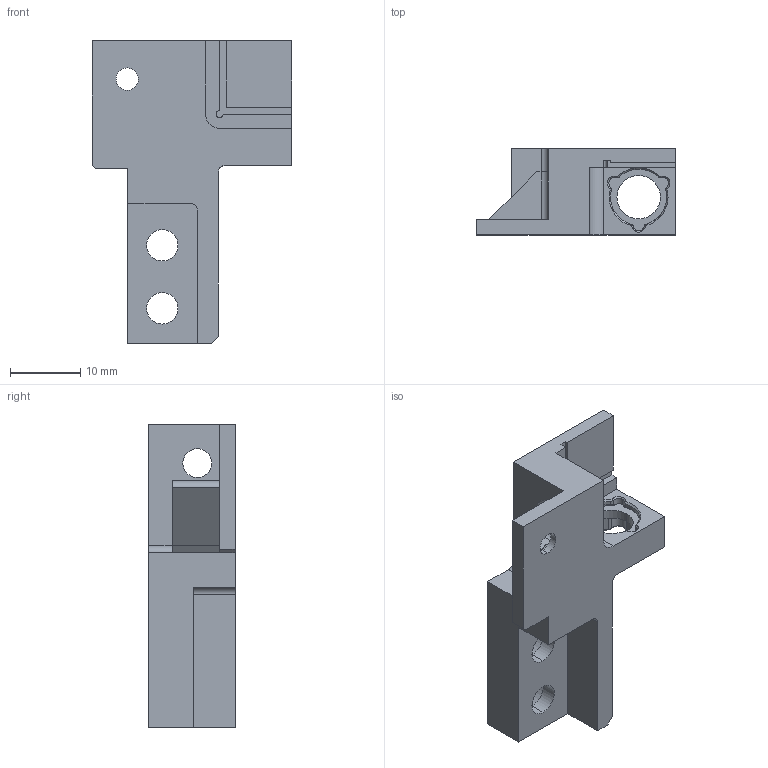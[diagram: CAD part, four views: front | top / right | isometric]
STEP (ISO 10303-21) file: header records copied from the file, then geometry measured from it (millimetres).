
FILE_DESCRIPTION (( 'STEP AP214' ), '1' );
FILE_NAME ('CBMS-001衵耜噩釱-V3.STEP', '2026-04-26T14:40:36', ( '' ), ( '' ), 'SwSTEP 2.0', 'SolidWorks 2022', '' );
FILE_SCHEMA (( 'AUTOMOTIVE_DESIGN' ));
Length unit declared in the file: millimetre
Products named in the file (1): CBMS-001右侧镜座-V3
Bounding box: 28.5 x 12.3 x 43.2 mm (x, y, z)
Volume: 5114 mm3; surface area: 3690.5 mm2
Topology: 1 solids, 1 shells, 212 faces, 567 edges, 361 vertices
Faces by surface type: cylinder 102, plane 54, cone 53, bspline 3
Entity records: 6826 total; most frequent: CARTESIAN_POINT 1297, DIRECTION 1239, ORIENTED_EDGE 1134, EDGE_CURVE 567, AXIS2_PLACEMENT_3D 489, VERTEX_POINT 361, CIRCLE 279, VECTOR 261
